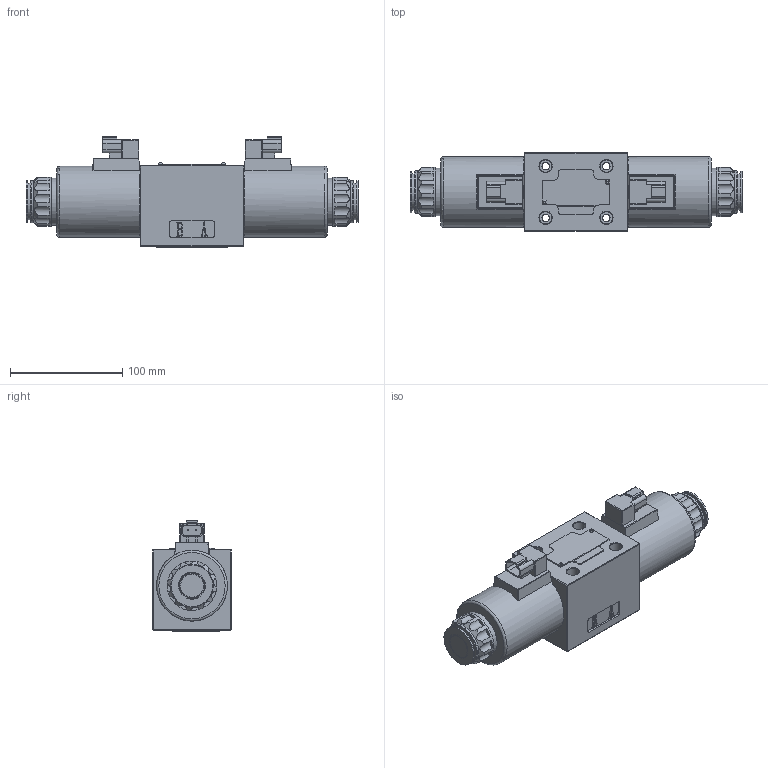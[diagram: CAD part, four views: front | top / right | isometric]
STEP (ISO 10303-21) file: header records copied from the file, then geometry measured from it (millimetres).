
FILE_DESCRIPTION(/* description */ (''),/* implementation_level */ '2;1');
FILE_NAME(/* name */ '4WE10-3XJ直流防水电磁阀（三位阀）.prt.stp',/* time_stamp */ '2022-03-30T19:34:11+08:00',/* author */ (''),/* organization */ (''),/* preprocessor_version */ 'ST-DEVELOPER v16.7',/* originating_system */ 'SIEMENS PLM Software NX 12.0',/* authorisation */ '');
FILE_SCHEMA (('AUTOMOTIVE_DESIGN { 1 0 10303 214 3 1 1 1 }'));
Length unit declared in the file: millimetre
Products named in the file (1): 4WE10-3XJ直流防水电磁阀（三位阀）
Bounding box: 295.4 x 70 x 98.3 mm (x, y, z)
Volume: 1041961.1 mm3; surface area: 183083.3 mm2
Topology: 24 solids, 32 shells, 1112 faces, 2670 edges, 1718 vertices
Faces by surface type: plane 580, cylinder 331, torus 100, cone 66, bspline 28, sphere 6, extrusion 1
Full cylindrical faces by diameter (mm): 1.2 x4, 1.8 x4, 1.9 x2, 2 x8, 3 x2, 3.6 x6, 5 x2, 6 x2, 6.6 x4, 8 x6, 10 x4, 11 x7, 11.5 x6, 12 x2, 15 x6, 15.7 x5, 16.5 x2, 17 x2, 17.4 x18, 18 x27, 18.4 x1, 20.5 x2, 21 x4, 21.4 x2, 24 x2, 31.5 x4, 32.5 x2, 33 x2, 37 x4, 37.766 x2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
Entity records: 42393 total; most frequent: CARTESIAN_POINT 15237, DIRECTION 5019, ORIENTED_EDGE 4500, EDGE_CURVE 2250, AXIS2_PLACEMENT_3D 1876, VERTEX_POINT 1636, EDGE_LOOP 1554, VECTOR 1267
